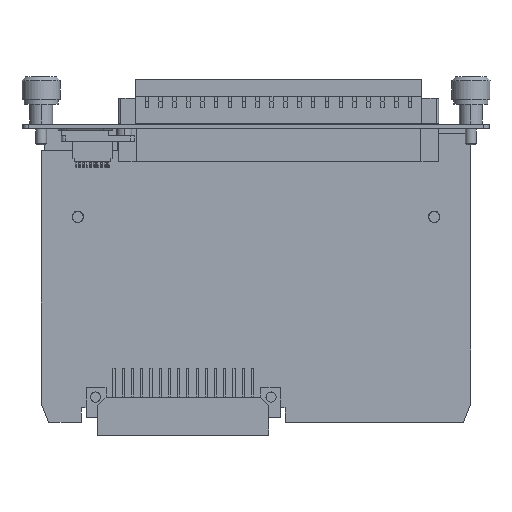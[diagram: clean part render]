
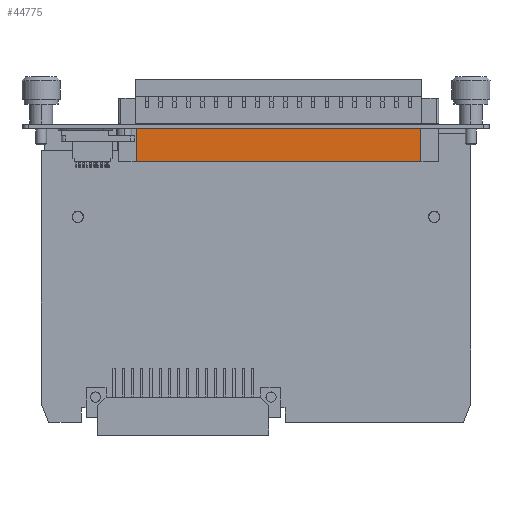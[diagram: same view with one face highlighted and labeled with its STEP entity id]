
A CAD part, left-side view. The second image highlights one B-rep face of the part: STEP entity #44775.
In plain terms, the highlighted planar face has unit normal (-1, 0, 0).
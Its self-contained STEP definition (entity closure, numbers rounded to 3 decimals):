
#501=DIRECTION('',(0.,1.,0.));
#502=VECTOR('',#501,78.32);
#503=CARTESIAN_POINT('',(-8.6,-45.36,58.2));
#504=LINE('',#503,#502);
#14038=DIRECTION('',(0.,0.,-1.));
#14039=VECTOR('',#14038,10.5);
#14040=CARTESIAN_POINT('',(-8.6,-45.36,68.7));
#14041=LINE('',#14040,#14039);
#14042=DIRECTION('',(0.,-1.,0.));
#14043=VECTOR('',#14042,78.32);
#14044=CARTESIAN_POINT('',(-8.6,32.96,68.7));
#14045=LINE('',#14044,#14043);
#14050=DIRECTION('',(0.,0.,1.));
#14051=VECTOR('',#14050,10.5);
#14052=CARTESIAN_POINT('',(-8.6,32.96,58.2));
#14053=LINE('',#14052,#14051);
#19432=CARTESIAN_POINT('',(-8.6,-45.36,58.2));
#19433=CARTESIAN_POINT('',(-8.6,32.96,58.2));
#19434=VERTEX_POINT('',#19432);
#19435=VERTEX_POINT('',#19433);
#22438=CARTESIAN_POINT('',(-8.6,-45.36,68.7));
#22440=VERTEX_POINT('',#22438);
#22468=CARTESIAN_POINT('',(-8.6,32.96,68.7));
#22469=VERTEX_POINT('',#22468);
#44763=CARTESIAN_POINT('',(-8.6,32.96,58.2));
#44764=DIRECTION('',(-1.,0.,0.));
#44765=DIRECTION('',(0.,-1.,0.));
#44766=AXIS2_PLACEMENT_3D('',#44763,#44764,#44765);
#44767=PLANE('',#44766);
#44768=ORIENTED_EDGE('',*,*,#23194,.T.);
#44769=ORIENTED_EDGE('',*,*,#44758,.T.);
#44770=ORIENTED_EDGE('',*,*,#23273,.T.);
#44772=ORIENTED_EDGE('',*,*,#44771,.T.);
#44773=EDGE_LOOP('',(#44768,#44769,#44770,#44772));
#44774=FACE_OUTER_BOUND('',#44773,.F.);
#23194=EDGE_CURVE('',#22469,#22440,#14045,.T.);
#23273=EDGE_CURVE('',#19434,#19435,#504,.T.);
#44758=EDGE_CURVE('',#22440,#19434,#14041,.T.);
#44771=EDGE_CURVE('',#19435,#22469,#14053,.T.);
#44775=ADVANCED_FACE('',(#44774),#44767,.T.);
